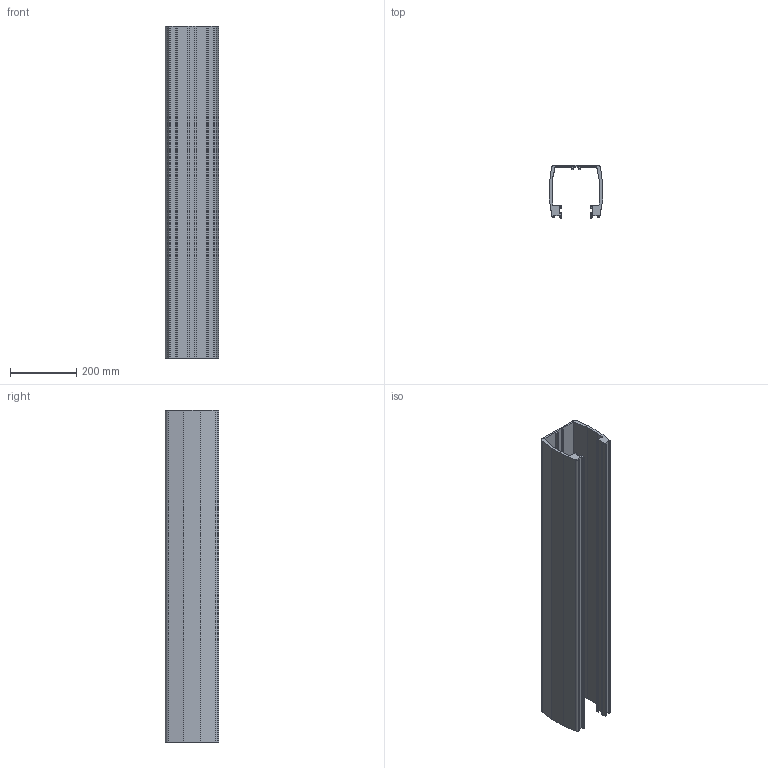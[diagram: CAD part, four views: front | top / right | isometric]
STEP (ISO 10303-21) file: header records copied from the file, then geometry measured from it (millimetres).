
FILE_DESCRIPTION (( 'STEP AP214' ), '1' );
FILE_NAME ('ALS_XXL Laufschiene.STEP', '2024-10-14T10:58:49', ( '' ), ( '' ), 'SwSTEP 2.0', 'SolidWorks 2024', '' );
FILE_SCHEMA (( 'AUTOMOTIVE_DESIGN' ));
Length unit declared in the file: millimetre
Products named in the file (1): ALS_XXL Laufschiene
Bounding box: 160 x 160 x 1000 mm (x, y, z)
Volume: 4351204.5 mm3; surface area: 1161148.6 mm2
Topology: 1 solids, 1 shells, 93 faces, 273 edges, 182 vertices
Faces by surface type: plane 74, cylinder 19
Entity records: 3088 total; most frequent: CARTESIAN_POINT 549, ORIENTED_EDGE 546, DIRECTION 499, EDGE_CURVE 273, LINE 235, VECTOR 235, VERTEX_POINT 182, AXIS2_PLACEMENT_3D 132
